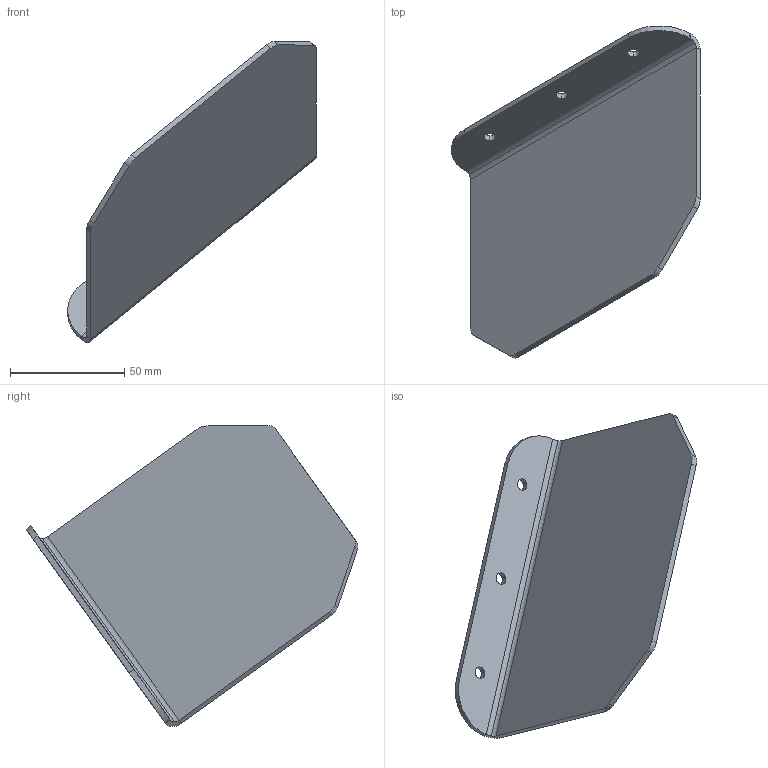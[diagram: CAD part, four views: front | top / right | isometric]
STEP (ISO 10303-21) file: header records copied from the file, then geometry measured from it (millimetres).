
FILE_DESCRIPTION (( 'STEP AP214' ), '1' );
FILE_NAME ('KB-26013_ Intake Guide_1.step', '2025-12-23T15:52:37', ( '' ), ( '' ), 'SwSTEP 2.0', 'SolidWorks 2026', '' );
FILE_SCHEMA (( 'AUTOMOTIVE_DESIGN' ));
Length unit declared in the file: inch
Products named in the file (1): KB-26013_ Intake Guide_1
Bounding box: 108.78 x 145.36 x 131.85 mm (x, y, z)
Volume: 45793.5 mm3; surface area: 37456.9 mm2
Topology: 1 solids, 1 shells, 30 faces, 76 edges, 48 vertices
Faces by surface type: cylinder 16, plane 14
Entity records: 947 total; most frequent: DIRECTION 170, CARTESIAN_POINT 155, ORIENTED_EDGE 152, EDGE_CURVE 76, AXIS2_PLACEMENT_3D 63, VERTEX_POINT 48, VECTOR 44, LINE 44
